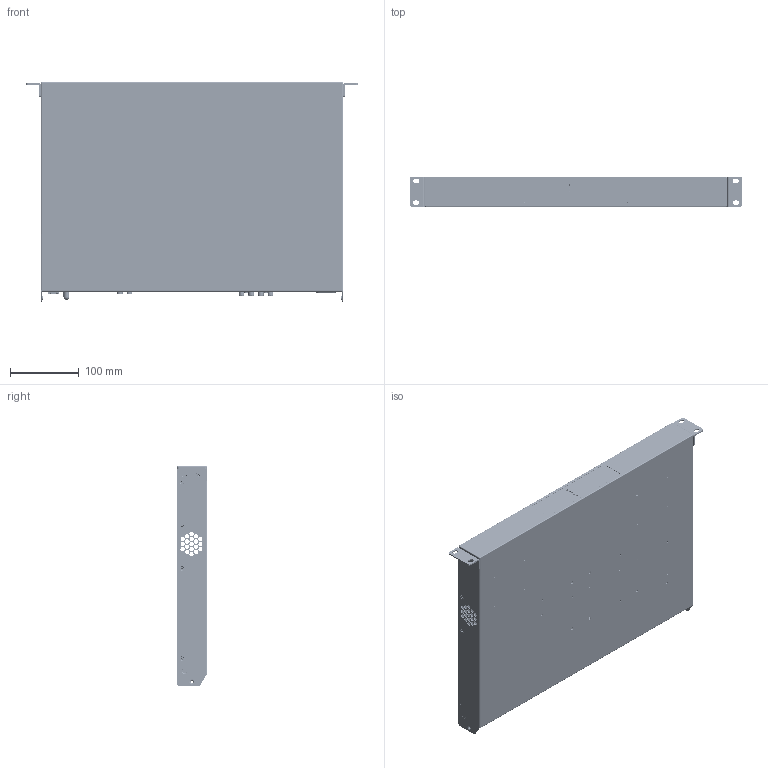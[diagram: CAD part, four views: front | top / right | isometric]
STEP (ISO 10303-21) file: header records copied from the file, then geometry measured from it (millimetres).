
FILE_DESCRIPTION (( 'STEP AP214' ), '1' );
FILE_NAME ('Sonance PowerZone Connect PRO 600.4.STEP', '2026-06-01T18:50:01', ( '' ), ( '' ), 'SwSTEP 2.0', 'SolidWorks 2025', '' );
FILE_SCHEMA (( 'AUTOMOTIVE_DESIGN' ));
Length unit declared in the file: millimetre
Products named in the file (1): Sonance PowerZone Connect PRO 600.4
Bounding box: 483 x 43.9 x 320 mm (x, y, z)
Surface area: 981047.3 mm2 (no closed solid volume)
Topology: 0 solids, 379 shells, 15150 faces, 38314 edges, 24313 vertices
Faces by surface type: plane 9122, cylinder 4147, cone 1128, torus 397, sphere 202, bspline 154
Entity records: 465804 total; most frequent: CARTESIAN_POINT 91849, DIRECTION 76491, ORIENTED_EDGE 76075, EDGE_CURVE 38084, VECTOR 25919, LINE 25919, AXIS2_PLACEMENT_3D 25286, VERTEX_POINT 24309
